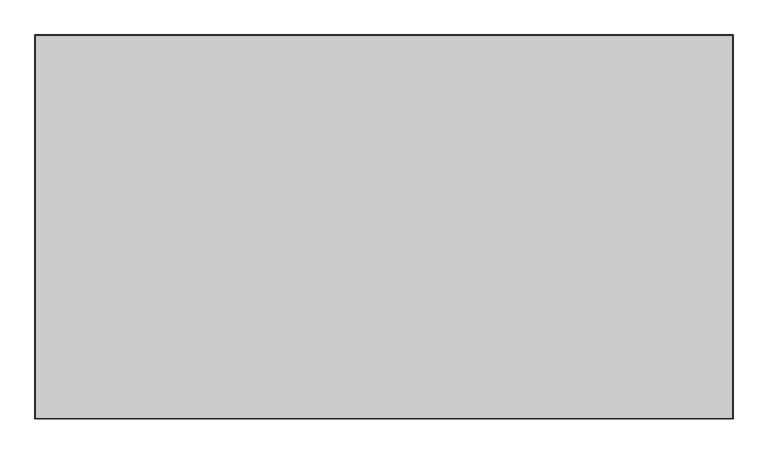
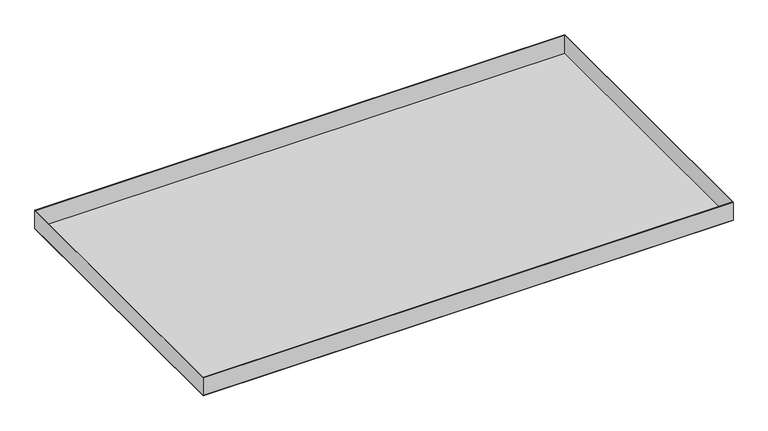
"""IFC4 building model written with IfcOpenShell, lengths in millimetres: proxy geometry, durlum_S55.4-BR_RHOMBOS_panel : durlum_S55.4-BR_RHOMBOS_panel."""

from ifc_helpers import new_model, si_unit, frame, origin, origin_with_axes, place, context, project, spatial, polyline, outline, extrude, source, transform, mapped, element, save


def generic_models_26e582ee(model_context):
    return source(origin(), model_context, "Body", "SweptSolid", [
        extrude(outline(polyline([(545.0, 299.75), (545.0, -299.75), (-545.0, -299.75), (-545.0, 299.75), (545.0, 299.75)]), holes=[polyline([(544.0, 298.75), (-544.0, 298.75), (-544.0, -298.75), (544.0, -298.75), (544.0, 298.75)])]), frame((0.0, 0.0, 1.0), z_axis=(0.0, 0.0, 1.0), x_axis=(1.0, 0.0, 0.0)), (0.0, 0.0, 1.0), 39.0),
        extrude(outline(polyline([(545.0, 299.75), (545.0, -299.75), (-545.0, -299.75), (-545.0, 299.75), (545.0, 299.75)])), origin_with_axes(), (0.0, 0.0, 1.0), 1.0),
    ])


if __name__ == "__main__":
    model = new_model("IFC4")
    model_context = context("Model", 3, world=origin())
    ifc_project = project(units=[si_unit("LENGTHUNIT", "METRE", prefix="MILLI")], contexts=[model_context])
    site = spatial("IfcSite", under=ifc_project)
    building = spatial("IfcBuilding", under=site)
    placement = place(None, origin())
    generic_models_shape = generic_models_26e582ee(model_context)
    element("IfcBuildingElementProxy", 1, Name="durlum_S55.4-BR_RHOMBOS_panel : durlum_S55.4-BR_RHOMBOS_panel", ObjectType="durlum_S55.4-BR_RHOMBOS_panel : durlum_S55.4-BR_RHOMBOS_panel", at=placement, inside=building, context=model_context, shape_type="MappedRepresentation", body=[
        mapped(generic_models_shape, transform((0.0, 0.0, 0.0), x_axis=(1.0, 0.0, 0.0), y_axis=(0.0, 1.0, 0.0), z_axis=(0.0, 0.0, 1.0))),
    ])
    save(model, "model.ifc")
